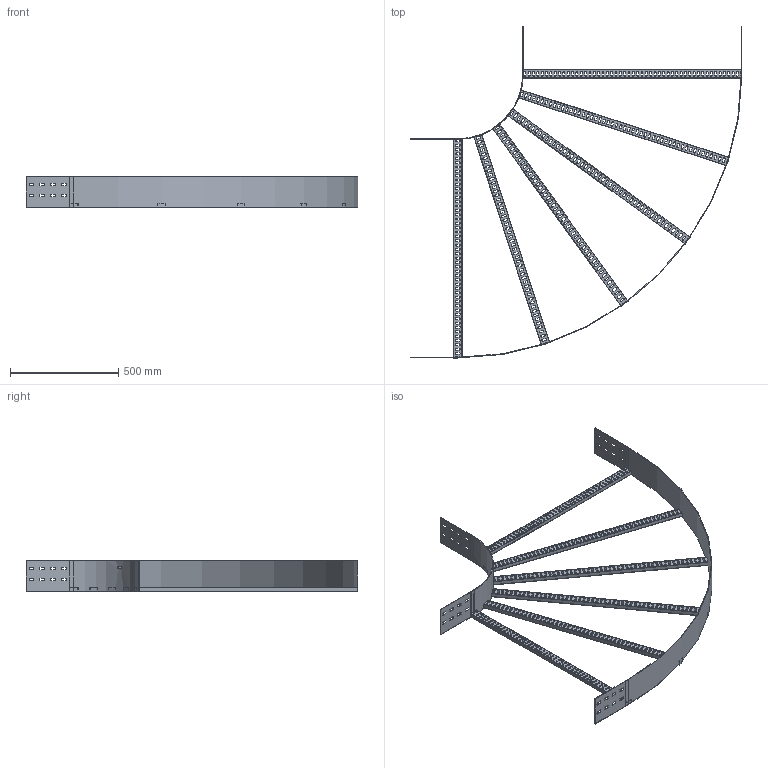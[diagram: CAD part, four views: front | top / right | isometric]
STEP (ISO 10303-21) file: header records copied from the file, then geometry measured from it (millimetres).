
FILE_DESCRIPTION(/* description */ ('','CAx-IF Rec.Pracs.---Representation and Presentation of Product Manufacturing Information (PMI)---4.0---2014-10-13'),/* implementation_level */ '2;1');
FILE_NAME(/* name */ 'Eurostrut_EFB150-1000-90-300_Bend 90 for Cable Ladder ECL.step',/* time_stamp */ '2026-09-07T12:16:22+02:00',/* author */ (''),/* organization */ (''),/* preprocessor_version */ 'ST-DEVELOPER v20.1',/* originating_system */ 'Autodesk Revit 2027 27.2.0.39',/* authorisation */ '');
FILE_SCHEMA (('AP242_MANAGED_MODEL_BASED_3D_ENGINEERING_MIM_LF { 1 0 10303 442 2 1 4 }'));
Length unit declared in the file: millimetre
Products named in the file (6): TopLevelAssembly; Sweep; Extrusion; Extrusion_1; Eurostrut_Cable Ladder_Rung_Horizontal Bend_With slots; Eurostrut_Cable Ladder_Accessory End SWEEP
Assembly tree (8 placements, depth 2):
  TopLevelAssembly
    Sweep
    Extrusion
    Extrusion_1
    Eurostrut_Cable Ladder_Rung_Horizontal Bend_With slots
    Eurostrut_Cable Ladder_Accessory End SWEEP  x4
Bounding box: 1531 x 1531 x 142 mm (x, y, z)
Volume: 2172042.2 mm3; surface area: 2023264.9 mm2
Topology: 16 solids, 16 shells, 1524 faces, 4476 edges, 2984 vertices
Faces by surface type: plane 884, bspline 612, cylinder 28
Entity records: 65632 total; most frequent: CARTESIAN_POINT 27220, ORIENTED_EDGE 8304, DIRECTION 7060, EDGE_CURVE 4152, LINE 2868, VECTOR 2868, VERTEX_POINT 2768, AXIS2_PLACEMENT_3D 2096
